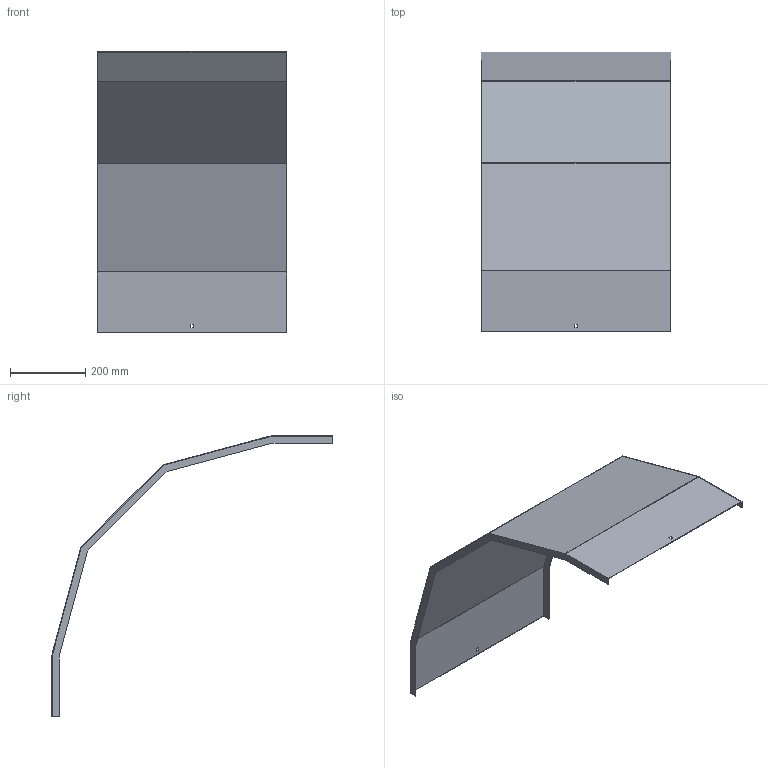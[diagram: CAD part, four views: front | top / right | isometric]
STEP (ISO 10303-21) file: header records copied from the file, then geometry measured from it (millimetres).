
FILE_DESCRIPTION (( 'STEP AP214' ), '1' );
FILE_NAME ('33N5C500.step', '2025-02-21T10:42:52', ( '' ), ( '' ), 'SwSTEP 2.0', 'SolidWorks 2023', '' );
FILE_SCHEMA (( 'AUTOMOTIVE_DESIGN' ));
Length unit declared in the file: millimetre
Products named in the file (1): 33N5C500
Bounding box: 503 x 745.38 x 745.38 mm (x, y, z)
Volume: 993430.5 mm3; surface area: 1329881.7 mm2
Topology: 1 solids, 1 shells, 34 faces, 96 edges, 64 vertices
Faces by surface type: plane 34
Entity records: 1111 total; most frequent: CARTESIAN_POINT 195, ORIENTED_EDGE 192, DIRECTION 166, LINE 96, EDGE_CURVE 96, VECTOR 96, VERTEX_POINT 64, EDGE_LOOP 38
